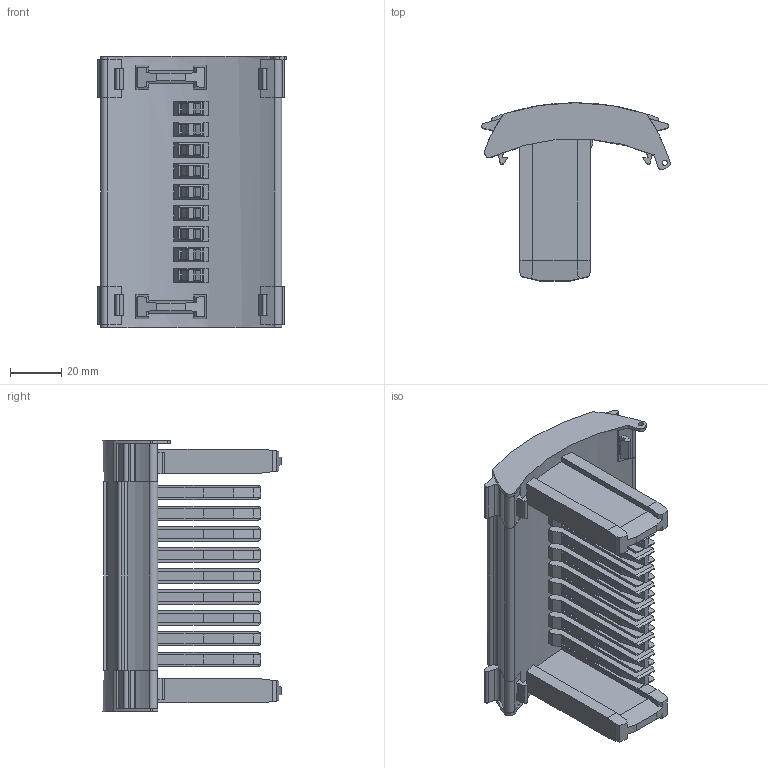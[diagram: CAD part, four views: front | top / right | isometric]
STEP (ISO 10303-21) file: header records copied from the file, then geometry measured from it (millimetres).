
FILE_DESCRIPTION(('TFLEX Exchange Step'),'2;1');
FILE_NAME('3074122_FAME_WP_8+1_STEZ.stp', '2024-05-28T11:35:05+03:00',('apanin'),('Unknown organisation'),'TFLEX Exchange 2023.2','T-FLEX CAD','Unknown authorisation');
FILE_SCHEMA( ('AUTOMOTIVE_DESIGN { 1 0 10303 214 1 1 1 1 }') );
Length unit declared in the file: millimetre
Products named in the file (1): Тело_1 - 3074122_FAME_WP_8_1-select:1
Bounding box: 73.53 x 69.5 x 105.95 mm (x, y, z)
Volume: 135071.8 mm3; surface area: 46371.9 mm2
Topology: 1 solids, 1 shells, 515 faces, 1430 edges, 934 vertices
Faces by surface type: plane 454, cylinder 61
Full cylindrical faces by diameter (mm): 2 x1
Entity records: 16425 total; most frequent: CARTESIAN_POINT 2880, ORIENTED_EDGE 2860, DIRECTION 2678, EDGE_CURVE 1430, VECTOR 1214, LINE 1214, VERTEX_POINT 934, AXIS2_PLACEMENT_3D 732
